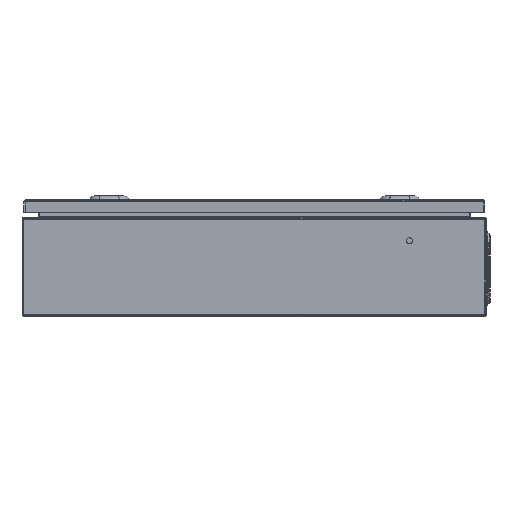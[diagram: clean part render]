
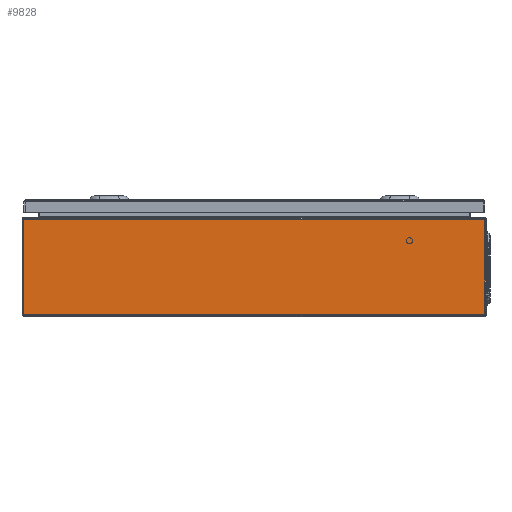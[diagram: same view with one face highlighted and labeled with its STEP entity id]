
A CAD part, left-side view. The second image highlights one B-rep face of the part: STEP entity #9828.
In plain terms, the highlighted planar face has unit normal (-1, 0, 0).
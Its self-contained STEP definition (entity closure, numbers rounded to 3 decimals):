
#550 = EDGE_CURVE ( 'NONE', #4623, #20193, #8021, .T. ) ;
#1178 = AXIS2_PLACEMENT_3D ( 'NONE', #9110, #15648, #2505 ) ;
#1428 = CARTESIAN_POINT ( 'NONE',  ( -250., 300., 124.5 ) ) ;
#1578 = CARTESIAN_POINT ( 'NONE',  ( -250., -297.5, 2.35 ) ) ;
#2505 = DIRECTION ( 'NONE',  ( 0., 0., -1. ) ) ;
#2740 = CARTESIAN_POINT ( 'NONE',  ( -250., 297.5, 1.2 ) ) ;
#3450 = CARTESIAN_POINT ( 'NONE',  ( -250., -297.5, 1.2 ) ) ;
#4228 = LINE ( 'NONE', #2740, #12296 ) ;
#4406 = PLANE ( 'NONE',  #1178 ) ;
#4623 = VERTEX_POINT ( 'NONE', #11149 ) ;
#4875 = EDGE_CURVE ( 'NONE', #4623, #19430, #4228, .T. ) ;
#5647 = VECTOR ( 'NONE', #19267, 1000. ) ;
#7406 = CARTESIAN_POINT ( 'NONE',  ( -250., 297.5, 2.35 ) ) ;
#7486 = FACE_OUTER_BOUND ( 'NONE', #9908, .T. ) ;
#7680 = EDGE_CURVE ( 'NONE', #19430, #16377, #11403, .T. ) ;
#8021 = LINE ( 'NONE', #1428, #5647 ) ;
#8319 = ORIENTED_EDGE ( 'NONE', *, *, #550, .F. ) ;
#9110 = CARTESIAN_POINT ( 'NONE',  ( -250., -300., 1.2 ) ) ;
#9828 = ADVANCED_FACE ( 'NONE', ( #7486 ), #4406, .F. ) ;
#9908 = EDGE_LOOP ( 'NONE', ( #18653, #20918, #13930, #8319 ) ) ;
#11149 = CARTESIAN_POINT ( 'NONE',  ( -250., 297.5, 124.5 ) ) ;
#11403 = LINE ( 'NONE', #14460, #17637 ) ;
#12296 = VECTOR ( 'NONE', #18984, 1000. ) ;
#12674 = CARTESIAN_POINT ( 'NONE',  ( -250., -297.5, 124.5 ) ) ;
#13930 = ORIENTED_EDGE ( 'NONE', *, *, #18187, .T. ) ;
#14255 = LINE ( 'NONE', #3450, #14794 ) ;
#14460 = CARTESIAN_POINT ( 'NONE',  ( -250., -300., 2.35 ) ) ;
#14794 = VECTOR ( 'NONE', #17894, 1000. ) ;
#15648 = DIRECTION ( 'NONE',  ( 1., 0., 0. ) ) ;
#16377 = VERTEX_POINT ( 'NONE', #1578 ) ;
#17637 = VECTOR ( 'NONE', #17878, 1000. ) ;
#17878 = DIRECTION ( 'NONE',  ( 0., -1., 0. ) ) ;
#17894 = DIRECTION ( 'NONE',  ( 0., 0., 1. ) ) ;
#18187 = EDGE_CURVE ( 'NONE', #16377, #20193, #14255, .T. ) ;
#18653 = ORIENTED_EDGE ( 'NONE', *, *, #4875, .T. ) ;
#18984 = DIRECTION ( 'NONE',  ( 0., 0., -1. ) ) ;
#19267 = DIRECTION ( 'NONE',  ( 0., -1., 0. ) ) ;
#19430 = VERTEX_POINT ( 'NONE', #7406 ) ;
#20193 = VERTEX_POINT ( 'NONE', #12674 ) ;
#20918 = ORIENTED_EDGE ( 'NONE', *, *, #7680, .T. ) ;
